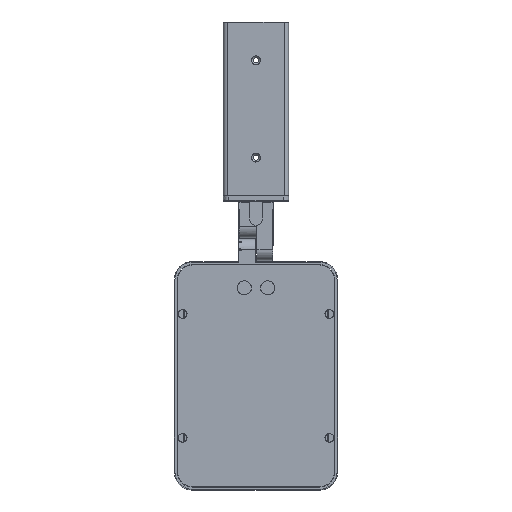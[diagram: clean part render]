
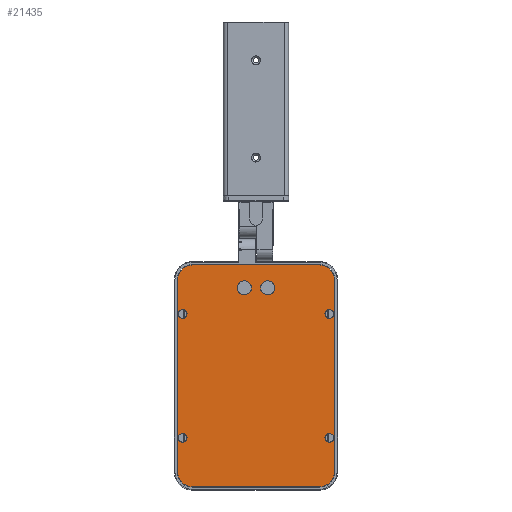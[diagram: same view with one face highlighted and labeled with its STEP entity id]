
A CAD part, front view. The second image highlights one B-rep face of the part: STEP entity #21435.
In plain terms, the highlighted planar face has unit normal (0, -1, 0).
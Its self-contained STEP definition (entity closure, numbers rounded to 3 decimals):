
#9347=CARTESIAN_POINT('',(67.5,0.5,57.));
#9348=DIRECTION('',(0.,-1.,0.));
#9349=DIRECTION('',(1.,0.,0.));
#9350=AXIS2_PLACEMENT_3D('',#9347,#9348,#9349);
#9352=CARTESIAN_POINT('',(67.5,0.5,57.));
#9353=DIRECTION('',(0.,-1.,0.));
#9354=DIRECTION('',(-1.,0.,0.));
#9355=AXIS2_PLACEMENT_3D('',#9352,#9353,#9354);
#9357=CARTESIAN_POINT('',(-67.5,0.5,-57.));
#9358=DIRECTION('',(0.,-1.,0.));
#9359=DIRECTION('',(-1.,0.,0.));
#9360=AXIS2_PLACEMENT_3D('',#9357,#9358,#9359);
#9362=CARTESIAN_POINT('',(-67.5,0.5,-57.));
#9363=DIRECTION('',(0.,-1.,0.));
#9364=DIRECTION('',(1.,0.,0.));
#9365=AXIS2_PLACEMENT_3D('',#9362,#9363,#9364);
#9367=CARTESIAN_POINT('',(-67.5,0.5,57.));
#9368=DIRECTION('',(0.,1.,0.));
#9369=DIRECTION('',(-1.,0.,0.));
#9370=AXIS2_PLACEMENT_3D('',#9367,#9368,#9369);
#9372=CARTESIAN_POINT('',(-67.5,0.5,57.));
#9373=DIRECTION('',(0.,-1.,0.));
#9374=DIRECTION('',(-1.,0.,0.));
#9375=AXIS2_PLACEMENT_3D('',#9372,#9373,#9374);
#9377=CARTESIAN_POINT('',(67.5,0.5,-57.));
#9378=DIRECTION('',(0.,-1.,0.));
#9379=DIRECTION('',(-1.,0.,0.));
#9380=AXIS2_PLACEMENT_3D('',#9377,#9378,#9379);
#9382=CARTESIAN_POINT('',(67.5,0.5,-57.));
#9383=DIRECTION('',(0.,-1.,0.));
#9384=DIRECTION('',(1.,0.,0.));
#9385=AXIS2_PLACEMENT_3D('',#9382,#9383,#9384);
#9387=CARTESIAN_POINT('',(58.5,0.5,-88.5));
#9388=DIRECTION('',(0.,1.,0.));
#9389=DIRECTION('',(1.,0.,0.));
#9390=AXIS2_PLACEMENT_3D('',#9387,#9388,#9389);
#9392=DIRECTION('',(-1.,0.,0.));
#9393=VECTOR('',#9392,117.);
#9394=CARTESIAN_POINT('',(58.5,0.5,-102.));
#9395=LINE('',#9394,#9393);
#9396=CARTESIAN_POINT('',(-58.5,0.5,-88.5));
#9397=DIRECTION('',(0.,1.,0.));
#9398=DIRECTION('',(0.,0.,-1.));
#9399=AXIS2_PLACEMENT_3D('',#9396,#9397,#9398);
#9401=DIRECTION('',(0.,0.,1.));
#9402=VECTOR('',#9401,177.);
#9403=CARTESIAN_POINT('',(-72.,0.5,-88.5));
#9404=LINE('',#9403,#9402);
#9405=CARTESIAN_POINT('',(-58.5,0.5,88.5));
#9406=DIRECTION('',(0.,1.,0.));
#9407=DIRECTION('',(-1.,0.,0.));
#9408=AXIS2_PLACEMENT_3D('',#9405,#9406,#9407);
#9410=DIRECTION('',(1.,0.,0.));
#9411=VECTOR('',#9410,117.);
#9412=CARTESIAN_POINT('',(-58.5,0.5,102.));
#9413=LINE('',#9412,#9411);
#9414=CARTESIAN_POINT('',(58.5,0.5,88.5));
#9415=DIRECTION('',(0.,1.,0.));
#9416=DIRECTION('',(0.,0.,1.));
#9417=AXIS2_PLACEMENT_3D('',#9414,#9415,#9416);
#9419=DIRECTION('',(0.,0.,-1.));
#9420=VECTOR('',#9419,177.);
#9421=CARTESIAN_POINT('',(72.,0.5,88.5));
#9422=LINE('',#9421,#9420);
#9423=CARTESIAN_POINT('',(-10.65,0.5,81.));
#9424=DIRECTION('',(0.,-1.,0.));
#9425=DIRECTION('',(1.,0.,0.));
#9426=AXIS2_PLACEMENT_3D('',#9423,#9424,#9425);
#9428=CARTESIAN_POINT('',(-10.65,0.5,81.));
#9429=DIRECTION('',(0.,-1.,0.));
#9430=DIRECTION('',(-1.,0.,0.));
#9431=AXIS2_PLACEMENT_3D('',#9428,#9429,#9430);
#9433=CARTESIAN_POINT('',(10.65,0.5,81.));
#9434=DIRECTION('',(0.,-1.,0.));
#9435=DIRECTION('',(1.,0.,0.));
#9436=AXIS2_PLACEMENT_3D('',#9433,#9434,#9435);
#9438=CARTESIAN_POINT('',(10.65,0.5,81.));
#9439=DIRECTION('',(0.,-1.,0.));
#9440=DIRECTION('',(-1.,0.,0.));
#9441=AXIS2_PLACEMENT_3D('',#9438,#9439,#9440);
#18702=CARTESIAN_POINT('',(71.55,0.5,57.));
#18703=CARTESIAN_POINT('',(63.45,0.5,57.));
#18704=VERTEX_POINT('',#18702);
#18705=VERTEX_POINT('',#18703);
#18706=CARTESIAN_POINT('',(58.5,0.5,-102.));
#18707=CARTESIAN_POINT('',(72.,0.5,-88.5));
#18708=VERTEX_POINT('',#18706);
#18709=VERTEX_POINT('',#18707);
#18710=CARTESIAN_POINT('',(72.,0.5,88.5));
#18711=VERTEX_POINT('',#18710);
#18712=CARTESIAN_POINT('',(58.5,0.5,102.));
#18713=VERTEX_POINT('',#18712);
#18714=CARTESIAN_POINT('',(-58.5,0.5,102.));
#18715=VERTEX_POINT('',#18714);
#18716=CARTESIAN_POINT('',(-72.,0.5,88.5));
#18717=VERTEX_POINT('',#18716);
#18718=CARTESIAN_POINT('',(-72.,0.5,-88.5));
#18719=VERTEX_POINT('',#18718);
#18720=CARTESIAN_POINT('',(-58.5,0.5,-102.));
#18721=VERTEX_POINT('',#18720);
#18738=CARTESIAN_POINT('',(-71.55,0.5,-57.));
#18739=CARTESIAN_POINT('',(-63.45,0.5,-57.));
#18740=VERTEX_POINT('',#18738);
#18741=VERTEX_POINT('',#18739);
#18746=CARTESIAN_POINT('',(-71.55,0.5,57.));
#18747=VERTEX_POINT('',#18746);
#18748=CARTESIAN_POINT('',(-63.45,0.5,57.));
#18749=VERTEX_POINT('',#18748);
#18750=CARTESIAN_POINT('',(71.55,0.5,-57.));
#18751=CARTESIAN_POINT('',(63.45,0.5,-57.));
#18752=VERTEX_POINT('',#18750);
#18753=VERTEX_POINT('',#18751);
#19028=CARTESIAN_POINT('',(-17.2,0.5,81.));
#19029=CARTESIAN_POINT('',(-4.1,0.5,81.));
#19030=VERTEX_POINT('',#19028);
#19031=VERTEX_POINT('',#19029);
#19032=CARTESIAN_POINT('',(4.1,0.5,81.));
#19033=CARTESIAN_POINT('',(17.2,0.5,81.));
#19034=VERTEX_POINT('',#19032);
#19035=VERTEX_POINT('',#19033);
#21376=CARTESIAN_POINT('',(0.,0.5,0.));
#21377=DIRECTION('',(0.,1.,0.));
#21378=DIRECTION('',(1.,0.,0.));
#21379=AXIS2_PLACEMENT_3D('',#21376,#21377,#21378);
#21380=PLANE('',#21379);
#21382=ORIENTED_EDGE('',*,*,#21381,.T.);
#21384=ORIENTED_EDGE('',*,*,#21383,.T.);
#21386=ORIENTED_EDGE('',*,*,#21385,.T.);
#21388=ORIENTED_EDGE('',*,*,#21387,.T.);
#21390=ORIENTED_EDGE('',*,*,#21389,.T.);
#21392=ORIENTED_EDGE('',*,*,#21391,.T.);
#21394=ORIENTED_EDGE('',*,*,#21393,.T.);
#21396=ORIENTED_EDGE('',*,*,#21395,.T.);
#21397=EDGE_LOOP('',(#21382,#21384,#21386,#21388,#21390,#21392,#21394,#21396));
#21398=FACE_OUTER_BOUND('',#21397,.F.);
#21400=ORIENTED_EDGE('',*,*,#21399,.T.);
#21402=ORIENTED_EDGE('',*,*,#21401,.T.);
#21403=EDGE_LOOP('',(#21400,#21402));
#21404=FACE_BOUND('',#21403,.F.);
#21406=ORIENTED_EDGE('',*,*,#21405,.F.);
#21408=ORIENTED_EDGE('',*,*,#21407,.T.);
#21409=EDGE_LOOP('',(#21406,#21408));
#21410=FACE_BOUND('',#21409,.F.);
#21412=ORIENTED_EDGE('',*,*,#21411,.T.);
#21414=ORIENTED_EDGE('',*,*,#21413,.T.);
#21415=EDGE_LOOP('',(#21412,#21414));
#21416=FACE_BOUND('',#21415,.F.);
#21418=ORIENTED_EDGE('',*,*,#21417,.T.);
#21420=ORIENTED_EDGE('',*,*,#21419,.T.);
#21421=EDGE_LOOP('',(#21418,#21420));
#21422=FACE_BOUND('',#21421,.F.);
#21424=ORIENTED_EDGE('',*,*,#21423,.T.);
#21426=ORIENTED_EDGE('',*,*,#21425,.T.);
#21427=EDGE_LOOP('',(#21424,#21426));
#21428=FACE_BOUND('',#21427,.F.);
#21430=ORIENTED_EDGE('',*,*,#21429,.T.);
#21432=ORIENTED_EDGE('',*,*,#21431,.T.);
#21433=EDGE_LOOP('',(#21430,#21432));
#21434=FACE_BOUND('',#21433,.F.);
#21435=ADVANCED_FACE('',(#21398,#21404,#21410,#21416,#21422,#21428,#21434),
#21380,.F.);
#9351=CIRCLE('',#9350,4.05);
#9356=CIRCLE('',#9355,4.05);
#9361=CIRCLE('',#9360,4.05);
#9366=CIRCLE('',#9365,4.05);
#9371=CIRCLE('',#9370,4.05);
#9376=CIRCLE('',#9375,4.05);
#9381=CIRCLE('',#9380,4.05);
#9386=CIRCLE('',#9385,4.05);
#9391=CIRCLE('',#9390,13.5);
#9400=CIRCLE('',#9399,13.5);
#9409=CIRCLE('',#9408,13.5);
#9418=CIRCLE('',#9417,13.5);
#9427=CIRCLE('',#9426,6.55);
#9432=CIRCLE('',#9431,6.55);
#9437=CIRCLE('',#9436,6.55);
#9442=CIRCLE('',#9441,6.55);
#21381=EDGE_CURVE('',#18709,#18708,#9391,.T.);
#21383=EDGE_CURVE('',#18708,#18721,#9395,.T.);
#21385=EDGE_CURVE('',#18721,#18719,#9400,.T.);
#21387=EDGE_CURVE('',#18719,#18717,#9404,.T.);
#21389=EDGE_CURVE('',#18717,#18715,#9409,.T.);
#21391=EDGE_CURVE('',#18715,#18713,#9413,.T.);
#21393=EDGE_CURVE('',#18713,#18711,#9418,.T.);
#21395=EDGE_CURVE('',#18711,#18709,#9422,.T.);
#21399=EDGE_CURVE('',#18740,#18741,#9361,.T.);
#21401=EDGE_CURVE('',#18741,#18740,#9366,.T.);
#21405=EDGE_CURVE('',#18747,#18749,#9371,.T.);
#21407=EDGE_CURVE('',#18747,#18749,#9376,.T.);
#21411=EDGE_CURVE('',#18753,#18752,#9381,.T.);
#21413=EDGE_CURVE('',#18752,#18753,#9386,.T.);
#21417=EDGE_CURVE('',#18704,#18705,#9351,.T.);
#21419=EDGE_CURVE('',#18705,#18704,#9356,.T.);
#21423=EDGE_CURVE('',#19031,#19030,#9427,.T.);
#21425=EDGE_CURVE('',#19030,#19031,#9432,.T.);
#21429=EDGE_CURVE('',#19035,#19034,#9437,.T.);
#21431=EDGE_CURVE('',#19034,#19035,#9442,.T.);
